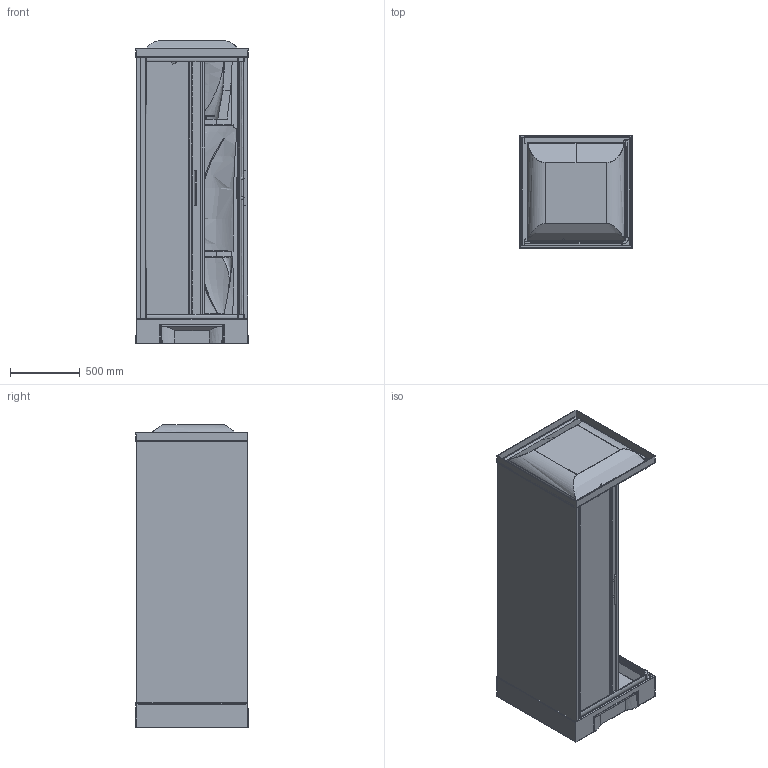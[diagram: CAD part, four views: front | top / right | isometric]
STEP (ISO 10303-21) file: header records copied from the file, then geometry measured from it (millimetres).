
FILE_DESCRIPTION(('STEP AP203'),'2;1');
FILE_NAME('NNH A 80 M T.stp','2015-09-04T14:45:38',(''),(''),'2014.1.117','THINKDESIGN','');
FILE_SCHEMA(('CONFIG_CONTROL_DESIGN'));
Bounding box: 804.03 x 807.53 x 2170 mm (x, y, z)
Volume: 178921720.4 mm3; surface area: 18270440.4 mm2
Topology: 32 solids, 32 shells, 726 faces, 1791 edges, 1118 vertices
Faces by surface type: bspline 382, plane 297, cylinder 47
Entity records: 67280 total; most frequent: CARTESIAN_POINT 52835, ORIENTED_EDGE 3566, DIRECTION 1877, EDGE_CURVE 1783, VERTEX_POINT 1118, VECTOR 925, LINE 925, EDGE_LOOP 745
